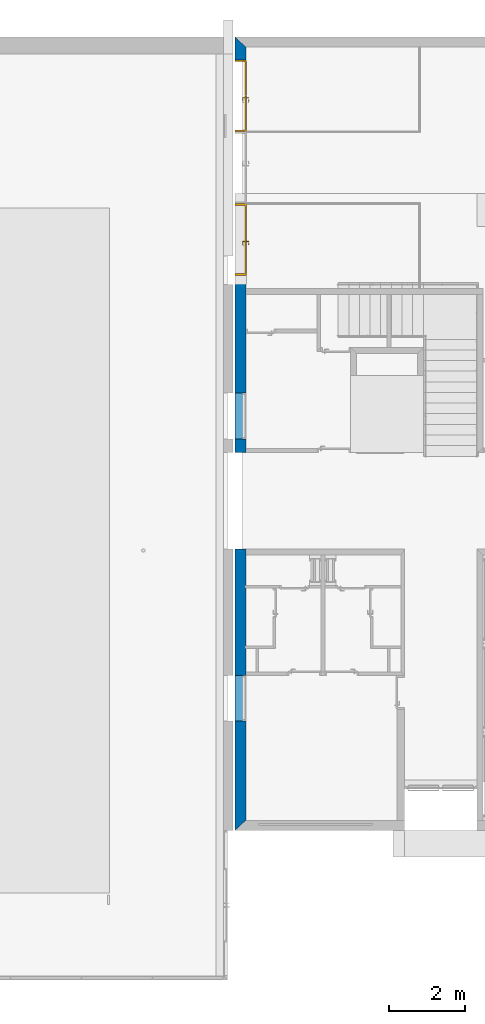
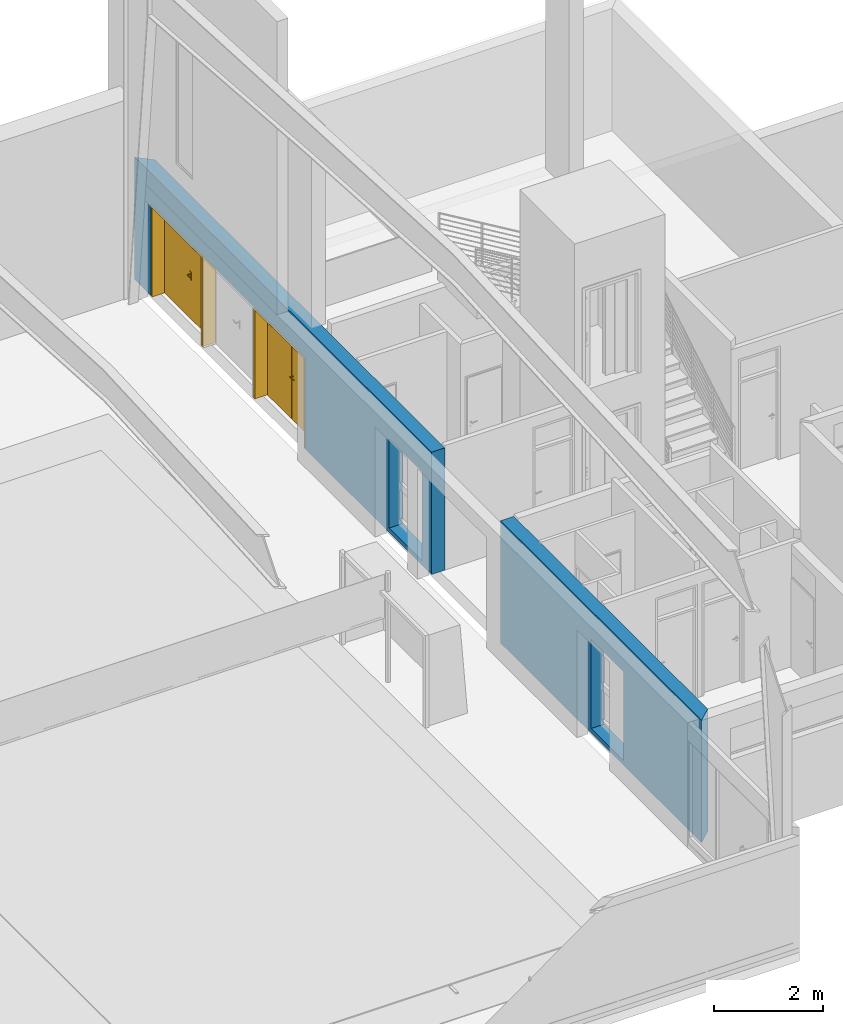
# One storey, part 10 of 45: 2 doors, 1 wall, 6 openings.
"""IFC2X3 building model written with IfcOpenShell, lengths in metres."""

from ifc_helpers import new_model, entity, si_unit, converted_unit, money_unit, direction, frame, origin_with_axes, place, context, subcontext, project, spatial, polyline, outline, extrude, open_shell, faceted_brep, surface_model, source, transform, mapped, material, layer, layer_set, layer_usage, type_object, element, fill, save


model = new_model("IFC2X3")

# Units and contexts
model_context = context("Model", 3, precision=1e-05, world=origin_with_axes(), true_north=direction((0.0, 1.0)))
body_context = subcontext(model_context, "Body", "Model", "MODEL_VIEW")
ifc_project = project(units=[si_unit("LENGTHUNIT", "METRE"), si_unit("AREAUNIT", "SQUARE_METRE"), si_unit("VOLUMEUNIT", "CUBIC_METRE"), converted_unit("PLANEANGLEUNIT", "DEGREE", entity("IfcPlaneAngleMeasure", 0.0174532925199), si_unit("PLANEANGLEUNIT", "RADIAN"), dimensions=[0, 0, 0, 0, 0, 0, 0]), si_unit("SOLIDANGLEUNIT", "STERADIAN"), money_unit("EUR"), converted_unit("TIMEUNIT", "Year", entity("IfcTimeMeasure", 31556926.0), si_unit("TIMEUNIT", "SECOND"), dimensions=[0, 0, 0, 0, 0, 0, 0]), si_unit("MASSUNIT", "GRAM"), si_unit("THERMODYNAMICTEMPERATUREUNIT", "DEGREE_CELSIUS"), si_unit("LUMINOUSINTENSITYUNIT", "LUMEN")], contexts=[model_context])

# Site, building, storey
site_placement = place(None, origin_with_axes())
site = spatial("IfcSite", under=ifc_project, at=site_placement, Name="Site", CompositionType="ELEMENT")
building_placement = place(site_placement, origin_with_axes())
building = spatial("IfcBuilding", under=site, at=building_placement, Name="Bâtiment", CompositionType="ELEMENT")
storey_placement = place(building_placement, origin_with_axes())
storey = spatial("IfcBuildingStorey", under=building, at=storey_placement, Name="NIVEAU BAS GYMNASE", CompositionType="ELEMENT", Elevation=0.0)

# Wall, openings, doors
ifc_material_1 = material(Name="Hachure solide* 3992800808")
ifc_layer_1 = layer(ifc_material_1, 0.02, ventilated="UNKNOWN")
ifc_material_2 = material(Name="Empty Fill 290923149")
ifc_layer_2 = layer(ifc_material_2, 0.08, ventilated="UNKNOWN")
ifc_material_3 = material(Name="Hachure solide* 2593434267")
ifc_layer_3 = layer(ifc_material_3, 0.18, ventilated="UNKNOWN")
ifc_layer_set = layer_set([ifc_layer_1, ifc_layer_2, ifc_layer_3], Name="•GYMN 18+10")
ifc_layer_usage = layer_usage(ifc_layer_set, "AXIS2", "POSITIVE", -0.28)
wall_type = type_object("IfcWallType", Name="•GYMN 18+10 280", PredefinedType="NOTDEFINED")
wall_placement = place(storey_placement, frame((45.478457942, 5.86881571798, 0.0), z_axis=(0.0, 0.0, 1.0), x_axis=(0.0, 1.0, 0.0)))
wall = element("IfcWallStandardCase", 1, at=wall_placement, inside=storey, type_object=wall_type, material=ifc_layer_usage, Name="Mur-021", context=body_context, shape_type="SweptSolid", body=[
    extrude(outline(polyline([(0.26, -0.28), (20.6103001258, -0.28), (20.8703001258, 0.0), (0.0, 0.0), (0.26, -0.28)])), origin_with_axes(), (0.0, 0.0, 1.0), 2.75),
])
opening_1_placement = place(wall_placement, frame((3.47, 0.0, 0.1), z_axis=(0.0, 0.0, 1.0), x_axis=(1.0, 0.0, 0.0)))
element("IfcOpeningElement", 2, at=opening_1_placement, cuts=wall, Name="Fen-005", context=body_context, shape_type="SweptSolid", body=[
    extrude(outline(polyline([(0.6, -2.0), (0.6, 0.0), (-0.6, 0.0), (-0.6, -2.0), (0.6, -2.0)])), frame((0.0, -0.28, 0.0), z_axis=(0.0, -1.0, 0.0), x_axis=(-1.0, 0.0, 0.0)), (0.0, 0.0, 1.0), 0.28),
    extrude(outline(polyline([(0.6, 0.0), (0.6, 2.0), (-0.6, 2.0), (-0.6, 0.0), (0.6, 0.0)])), frame((0.0, -0.28, 0.0), z_axis=(0.0, 1.0, 0.0), x_axis=(-1.0, 0.0, 0.0)), (0.0, 0.0, 1.0), 0.28),
])
opening_2_placement = place(wall_placement, frame((10.9011451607, 0.0, 0.1), z_axis=(0.0, 0.0, 1.0), x_axis=(1.0, 0.0, 0.0)))
element("IfcOpeningElement", 3, at=opening_2_placement, cuts=wall, Name="Fen-006", context=body_context, shape_type="SweptSolid", body=[
    extrude(outline(polyline([(0.6, -2.0), (0.6, 0.0), (-0.6, 0.0), (-0.6, -2.0), (0.6, -2.0)])), frame((0.0, -0.28, 0.0), z_axis=(0.0, -1.0, 0.0), x_axis=(-1.0, 0.0, 0.0)), (0.0, 0.0, 1.0), 0.28),
    extrude(outline(polyline([(0.6, 0.0), (0.6, 2.0), (-0.6, 2.0), (-0.6, 0.0), (0.6, 0.0)])), frame((0.0, -0.28, 0.0), z_axis=(0.0, 1.0, 0.0), x_axis=(-1.0, 0.0, 0.0)), (0.0, 0.0, 1.0), 0.28),
])
opening_3_placement = place(wall_placement, frame((8.67, 0.0, 0.0), z_axis=(0.0, 0.0, 1.0), x_axis=(1.0, 0.0, 0.0)))
element("IfcOpeningElement", 4, at=opening_3_placement, cuts=wall, Name="Por-001", context=body_context, shape_type="SweptSolid", body=[
    extrude(outline(polyline([(-1.27, 2.771708), (-1.27, 0.0), (1.27, 0.0), (1.27, 2.771708), (-1.27, 2.771708)])), frame((0.0, -0.28, 0.0), z_axis=(0.0, -1.0, 0.0), x_axis=(1.0, 0.0, 0.0)), (0.0, 0.0, 1.0), 0.28),
    extrude(outline(polyline([(-1.27, 0.0), (-1.27, -2.771708), (1.27, -2.771708), (1.27, 0.0), (-1.27, 0.0)])), frame((0.0, -0.28, 0.0), z_axis=(0.0, 1.0, 0.0), x_axis=(1.0, 0.0, 0.0)), (0.0, 0.0, 1.0), 0.28),
])
opening_4_placement = place(wall_placement, frame((17.4351500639, 0.0, 0.0), z_axis=(0.0, 0.0, 1.0), x_axis=(1.0, 0.0, 0.0)))
element("IfcOpeningElement", 5, at=opening_4_placement, cuts=wall, Name="Por-017", context=body_context, shape_type="SweptSolid", body=[
    extrude(outline(polyline([(0.945, 0.0), (-0.945, 0.0), (-0.945, -2.045), (0.945, -2.045), (0.945, 0.0)])), frame((0.0, 0.28, 0.0), z_axis=(0.0, -1.0, 0.0), x_axis=(-1.0, 0.0, 0.0)), (0.0, 0.0, 1.0), 0.56),
])
opening_5_placement = place(wall_placement, frame((19.3251500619, 0.0, 0.0), z_axis=(0.0, 0.0, 1.0), x_axis=(1.0, 0.0, 0.0)))
opening_5 = element("IfcOpeningElement", 6, at=opening_5_placement, cuts=wall, Name="Por-017", context=body_context, shape_type="SweptSolid", body=[
    extrude(outline(polyline([(-0.945, 0.0), (-0.945, -2.045), (0.945, -2.045), (0.945, 0.0), (-0.945, 0.0)])), frame((0.0, 0.28, 0.0), z_axis=(0.0, -1.0, 0.0), x_axis=(-1.0, 0.0, 0.0)), (0.0, 0.0, 1.0), 0.56),
])
opening_6_placement = place(wall_placement, frame((15.5451500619, 0.0, 0.0), z_axis=(0.0, 0.0, 1.0), x_axis=(1.0, 0.0, 0.0)))
opening_6 = element("IfcOpeningElement", 7, at=opening_6_placement, cuts=wall, Name="Por-018", context=body_context, shape_type="SweptSolid", body=[
    extrude(outline(polyline([(-0.945, 0.0), (-0.945, -2.045), (0.945, -2.045), (0.945, 0.0), (-0.945, 0.0)])), frame((0.0, 0.28, 0.0), z_axis=(0.0, -1.0, 0.0), x_axis=(-1.0, 0.0, 0.0)), (0.0, 0.0, 1.0), 0.56),
])
ifc_material_4 = material(Name="Sans Trame")
door_style = type_object("IfcDoorStyle", Name="Porte int 2v inégaux", ConstructionType="NOTDEFINED", OperationType="NOTDEFINED", ParameterTakesPrecedence=False, Sizeable=False)
shared_shape = source(origin_with_axes(), body_context, "Body", "SurfaceModel", [
    faceted_brep([(0.944999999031, 0.0, 0.0), (0.914999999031, 0.0, 0.0), (0.914999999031, 0.0, 2.015), (-0.915000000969, 0.0, 2.015), (-0.915000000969, 0.0, 0.0), (-0.945000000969, 0.0, 0.0), (-0.945000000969, 0.0, 2.045), (0.944999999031, 0.0, 2.045), (0.944999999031, -0.28, 0.0), (0.899999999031, -0.28, 0.0), (0.899999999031, -0.015, 0.0), (0.914999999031, -0.015, 0.0), (0.914999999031, -0.015, 2.015), (-0.915000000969, -0.015, 2.015), (-0.915000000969, -0.015, 0.0), (-0.900000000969, -0.015, 0.0), (-0.900000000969, -0.28, 0.0), (-0.945000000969, -0.28, 0.0), (-0.945000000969, -0.28, 2.045), (0.944999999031, -0.28, 2.045), (-0.900000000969, -0.28, 2.0), (0.899999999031, -0.28, 2.0), (0.899999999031, -0.015, 2.0), (-0.900000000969, -0.015, 2.0)], [[[0, 1, 2, 3, 4, 5, 6, 7]], [[0, 8, 9, 10, 11, 1]], [[1, 11, 12, 2]], [[2, 12, 13, 3]], [[3, 13, 14, 4]], [[5, 4, 14, 15, 16, 17]], [[18, 6, 5, 17]], [[19, 7, 6, 18]], [[8, 0, 7, 19]], [[9, 8, 19, 18, 17, 16, 20, 21]], [[10, 9, 21, 22]], [[11, 10, 22, 23, 15, 14, 13, 12]], [[23, 20, 16, 15]], [[22, 21, 20, 23]]]),
    faceted_brep([(-0.915000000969, 0.015, 0.0), (-0.00500000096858, 0.015, 0.0), (-0.00500000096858, -0.015, 0.0), (-0.915000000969, -0.015, 0.0), (-0.915000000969, 0.015, 2.015), (-0.00500000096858, 0.015, 2.015), (-0.00500000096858, -0.015, 2.015), (-0.915000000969, -0.015, 2.015)], [[[0, 1, 2, 3]], [[0, 4, 5, 1]], [[1, 5, 6, 2]], [[3, 2, 6, 7]], [[4, 0, 3, 7]], [[5, 4, 7, 6]]]),
    faceted_brep([(0.914999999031, 0.015, 0.0), (0.914999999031, -0.015, 0.0), (-9.68579882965e-10, -0.015, 0.0), (-9.68579882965e-10, 0.015, 0.0), (0.914999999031, 0.015, 2.015), (0.914999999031, -0.015, 2.015), (-9.68579882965e-10, -0.015, 2.015), (-9.68579882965e-10, 0.015, 2.015)], [[[0, 1, 2, 3]], [[4, 5, 1, 0]], [[1, 5, 6, 2]], [[3, 2, 6, 7]], [[0, 3, 7, 4]], [[7, 6, 5, 4]]]),
    faceted_brep([(0.0239999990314, -0.015, 1.06), (0.0239999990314, -0.018, 1.06), (0.0809999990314, -0.018, 1.06), (0.0809999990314, -0.015, 1.06), (0.0239999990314, -0.015, 0.87), (0.0239999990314, -0.018, 0.87), (0.0809999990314, -0.018, 0.87), (0.0809999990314, -0.015, 0.87)], [[[0, 1, 2, 3]], [[4, 5, 1, 0]], [[1, 5, 6, 2]], [[3, 2, 6, 7]], [[0, 3, 7, 4]], [[7, 6, 5, 4]]]),
    surface_model("IfcShellBasedSurfaceModel", [(0.0524999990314, -0.079, 0.99), (0.0524999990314, -0.086, 0.99), (0.0486729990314, -0.086, 0.990761), (0.0486729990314, -0.079, 0.990761), (0.0774999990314, -0.079, 0.99), (0.0774999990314, -0.086, 0.99), (0.0774999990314, -0.086, 1.01), (0.0524999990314, -0.086, 1.01), (0.0486729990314, -0.086, 1.009239), (0.0454289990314, -0.086, 1.007071), (0.0432609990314, -0.086, 1.003827), (0.0424999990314, -0.086, 1.0), (0.0432609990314, -0.086, 0.996173), (0.0454289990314, -0.086, 0.992929), (0.0454289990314, -0.079, 0.992929), (0.0432609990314, -0.079, 0.996173), (0.0424999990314, -0.079, 1.0), (0.0432609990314, -0.079, 1.003827), (0.0454289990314, -0.079, 1.007071), (0.0486729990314, -0.079, 1.009239), (0.0524999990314, -0.079, 1.01), (0.0774999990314, -0.079, 1.01)], [open_shell([[[0, 1, 2, 3]], [[4, 5, 1, 0]], [[1, 5, 6, 7, 8, 9, 10, 11, 12, 13, 2]], [[3, 2, 13, 14]], [[0, 3, 14, 15, 16, 17, 18, 19, 20, 21, 4]], [[20, 7, 6, 21]], [[19, 8, 7, 20]], [[18, 9, 8, 19]], [[17, 10, 9, 18]], [[16, 11, 10, 17]], [[15, 12, 11, 16]], [[14, 13, 12, 15]]])]),
    surface_model("IfcShellBasedSurfaceModel", [(0.0774999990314, -0.079, 1.01), (0.0909039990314, -0.086, 1.009607), (0.0905979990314, -0.079, 1.009607), (0.0774999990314, -0.086, 1.01), (0.117609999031, -0.083664, 1.008822), (0.0905979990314, -0.079, 0.990393), (0.0774999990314, -0.079, 0.99), (0.0774999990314, -0.086, 0.99), (0.0909039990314, -0.086, 0.990393), (0.117609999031, -0.083664, 0.991178), (0.116694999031, -0.076717, 1.008822), (0.116694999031, -0.076717, 0.991178), (0.144009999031, -0.079008, 0.991963), (0.144009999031, -0.079008, 1.008037), (0.142493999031, -0.072168, 1.008037), (0.142493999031, -0.072168, 0.991963), (0.169904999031, -0.07207, 0.992749), (0.169904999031, -0.07207, 1.007251), (0.167797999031, -0.065388, 1.007251), (0.167797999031, -0.065388, 0.992749), (0.177960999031, -0.069138, 0.993), (0.177960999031, -0.069138, 1.007), (0.175670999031, -0.062522, 1.007), (0.175670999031, -0.062522, 0.993)], [open_shell([[[0, 1, 2]], [[0, 3, 1]], [[2, 1, 4]], [[0, 2, 5, 6]], [[3, 7, 8, 1]], [[1, 8, 9, 4]], [[2, 4, 10]], [[2, 10, 11, 5]], [[5, 7, 6]], [[5, 8, 7]], [[11, 9, 8]], [[4, 9, 12, 13]], [[10, 4, 13]], [[10, 14, 15, 11]], [[11, 8, 5]], [[15, 9, 11]], [[15, 12, 9]], [[13, 12, 16, 17]], [[10, 13, 14]], [[14, 18, 19, 15]], [[19, 12, 15]], [[19, 16, 12]], [[17, 16, 20, 21]], [[14, 13, 17]], [[14, 17, 18]], [[18, 22, 23, 19]], [[23, 16, 19]], [[23, 20, 16]], [[22, 21, 20, 23]], [[18, 17, 21]], [[18, 21, 22]]])]),
    faceted_brep([(0.0635869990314, -0.028, 0.995408), (0.0645099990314, -0.018, 0.995025), (0.0654999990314, -0.018, 1.0), (0.0644999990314, -0.028, 1.0), (0.0609849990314, -0.028, 0.991515), (0.0616919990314, -0.018, 0.990808), (0.0574749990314, -0.018, 0.98799), (0.0524999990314, -0.018, 0.987), (0.0475249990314, -0.018, 0.98799), (0.0433079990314, -0.018, 0.990808), (0.0404899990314, -0.018, 0.995025), (0.0394999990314, -0.018, 1.0), (0.0404899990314, -0.018, 1.004975), (0.0433079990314, -0.018, 1.009192), (0.0475249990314, -0.018, 1.01201), (0.0524999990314, -0.018, 1.013), (0.0574749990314, -0.018, 1.01201), (0.0616919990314, -0.018, 1.009192), (0.0645099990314, -0.018, 1.004975), (0.0635869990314, -0.028, 1.004592), (0.0609849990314, -0.028, 1.008485), (0.0570919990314, -0.028, 1.011087), (0.0524999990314, -0.028, 1.012), (0.0479079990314, -0.028, 1.011087), (0.0440149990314, -0.028, 1.008485), (0.0414129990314, -0.028, 1.004592), (0.0404999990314, -0.028, 1.0), (0.0414129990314, -0.028, 0.995408), (0.0440149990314, -0.028, 0.991515), (0.0479079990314, -0.028, 0.988913), (0.0524999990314, -0.028, 0.988), (0.0570919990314, -0.028, 0.988913)], [[[0, 1, 2, 3]], [[4, 5, 1, 0]], [[2, 1, 5, 6, 7, 8, 9, 10, 11, 12, 13, 14, 15, 16, 17, 18]], [[3, 2, 18, 19]], [[3, 19, 20, 21, 22, 23, 24, 25, 26, 27, 28, 29, 30, 31, 4, 0]], [[31, 6, 5, 4]], [[30, 7, 6, 31]], [[29, 8, 7, 30]], [[28, 9, 8, 29]], [[27, 10, 9, 28]], [[26, 11, 10, 27]], [[25, 12, 11, 26]], [[24, 13, 12, 25]], [[23, 14, 13, 24]], [[22, 15, 14, 23]], [[21, 16, 15, 22]], [[20, 17, 16, 21]], [[19, 18, 17, 20]]]),
    faceted_brep([(0.0709779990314, -0.022, 0.897346), (0.0728249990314, -0.018, 0.896581), (0.0744999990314, -0.018, 0.905), (0.0724999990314, -0.022, 0.905), (0.0666419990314, -0.022, 0.890858), (0.0680559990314, -0.018, 0.889444), (0.0609189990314, -0.018, 0.884675), (0.0524999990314, -0.018, 0.883), (0.0440809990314, -0.018, 0.884675), (0.0369439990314, -0.018, 0.889444), (0.0321749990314, -0.018, 0.896581), (0.0304999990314, -0.018, 0.905), (0.0321749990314, -0.018, 0.913419), (0.0369439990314, -0.018, 0.920556), (0.0440809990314, -0.018, 0.925325), (0.0524999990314, -0.018, 0.927), (0.0609189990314, -0.018, 0.925325), (0.0680559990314, -0.018, 0.920556), (0.0728249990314, -0.018, 0.913419), (0.0709779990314, -0.022, 0.912654), (0.0666419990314, -0.022, 0.919142), (0.0601539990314, -0.022, 0.923478), (0.0524999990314, -0.022, 0.925), (0.0448459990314, -0.022, 0.923478), (0.0383579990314, -0.022, 0.919142), (0.0340219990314, -0.022, 0.912654), (0.0324999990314, -0.022, 0.905), (0.0340219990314, -0.022, 0.897346), (0.0383579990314, -0.022, 0.890858), (0.0448459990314, -0.022, 0.886522), (0.0524999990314, -0.022, 0.885), (0.0601539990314, -0.022, 0.886522)], [[[0, 1, 2, 3]], [[4, 5, 1, 0]], [[2, 1, 5, 6, 7, 8, 9, 10, 11, 12, 13, 14, 15, 16, 17, 18]], [[3, 2, 18, 19]], [[3, 19, 20, 21, 22, 23, 24, 25, 26, 27, 28, 29, 30, 31, 4, 0]], [[31, 6, 5, 4]], [[30, 7, 6, 31]], [[29, 8, 7, 30]], [[28, 9, 8, 29]], [[27, 10, 9, 28]], [[26, 11, 10, 27]], [[25, 12, 11, 26]], [[24, 13, 12, 25]], [[23, 14, 13, 24]], [[22, 15, 14, 23]], [[21, 16, 15, 22]], [[20, 17, 16, 21]], [[19, 18, 17, 20]]]),
    faceted_brep([(0.0589669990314, -0.024, 0.911321), (0.0598909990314, -0.022, 0.910939), (0.0604999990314, -0.022, 0.914), (0.0594999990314, -0.024, 0.914), (0.0574499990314, -0.024, 0.90905), (0.0581569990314, -0.022, 0.908343), (0.0555609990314, -0.022, 0.906609), (0.0524999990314, -0.022, 0.906), (0.0494389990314, -0.022, 0.906609), (0.0468429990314, -0.022, 0.908343), (0.0451089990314, -0.022, 0.910939), (0.0444999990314, -0.022, 0.914), (0.0451089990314, -0.022, 0.917061), (0.0468429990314, -0.022, 0.919657), (0.0494389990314, -0.022, 0.921391), (0.0524999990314, -0.022, 0.922), (0.0555609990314, -0.022, 0.921391), (0.0581569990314, -0.022, 0.919657), (0.0598909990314, -0.022, 0.917061), (0.0589669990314, -0.024, 0.916679), (0.0574499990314, -0.024, 0.91895), (0.0551789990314, -0.024, 0.920467), (0.0524999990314, -0.024, 0.921), (0.0498209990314, -0.024, 0.920467), (0.0475499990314, -0.024, 0.91895), (0.0460329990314, -0.024, 0.916679), (0.0454999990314, -0.024, 0.914), (0.0460329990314, -0.024, 0.911321), (0.0475499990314, -0.024, 0.90905), (0.0498209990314, -0.024, 0.907533), (0.0524999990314, -0.024, 0.907), (0.0551789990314, -0.024, 0.907533)], [[[0, 1, 2, 3]], [[4, 5, 1, 0]], [[2, 1, 5, 6, 7, 8, 9, 10, 11, 12, 13, 14, 15, 16, 17, 18]], [[3, 2, 18, 19]], [[3, 19, 20, 21, 22, 23, 24, 25, 26, 27, 28, 29, 30, 31, 4, 0]], [[31, 6, 5, 4]], [[30, 7, 6, 31]], [[29, 8, 7, 30]], [[28, 9, 8, 29]], [[27, 10, 9, 28]], [[26, 11, 10, 27]], [[25, 12, 11, 26]], [[24, 13, 12, 25]], [[23, 14, 13, 24]], [[22, 15, 14, 23]], [[21, 16, 15, 22]], [[20, 17, 16, 21]], [[19, 18, 17, 20]]]),
    faceted_brep([(0.0524999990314, -0.028, 1.01), (0.0524999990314, -0.079, 1.01), (0.0563269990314, -0.079, 1.009239), (0.0563269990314, -0.028, 1.009239), (0.0486729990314, -0.028, 1.009239), (0.0486729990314, -0.079, 1.009239), (0.0454289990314, -0.079, 1.007071), (0.0432609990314, -0.079, 1.003827), (0.0424999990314, -0.079, 1.0), (0.0432609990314, -0.079, 0.996173), (0.0454289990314, -0.079, 0.992929), (0.0486729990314, -0.079, 0.990761), (0.0524999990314, -0.079, 0.99), (0.0563269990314, -0.079, 0.990761), (0.0595709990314, -0.079, 0.992929), (0.0617389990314, -0.079, 0.996173), (0.0624999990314, -0.079, 1.0), (0.0617389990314, -0.079, 1.003827), (0.0595709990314, -0.079, 1.007071), (0.0595709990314, -0.028, 1.007071), (0.0617389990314, -0.028, 1.003827), (0.0624999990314, -0.028, 1.0), (0.0617389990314, -0.028, 0.996173), (0.0595709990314, -0.028, 0.992929), (0.0563269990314, -0.028, 0.990761), (0.0524999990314, -0.028, 0.99), (0.0486729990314, -0.028, 0.990761), (0.0454289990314, -0.028, 0.992929), (0.0432609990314, -0.028, 0.996173), (0.0424999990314, -0.028, 1.0), (0.0432609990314, -0.028, 1.003827), (0.0454289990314, -0.028, 1.007071)], [[[0, 1, 2, 3]], [[4, 5, 1, 0]], [[1, 5, 6, 7, 8, 9, 10, 11, 12, 13, 14, 15, 16, 17, 18, 2]], [[3, 2, 18, 19]], [[0, 3, 19, 20, 21, 22, 23, 24, 25, 26, 27, 28, 29, 30, 31, 4]], [[31, 6, 5, 4]], [[30, 7, 6, 31]], [[29, 8, 7, 30]], [[28, 9, 8, 29]], [[27, 10, 9, 28]], [[26, 11, 10, 27]], [[25, 12, 11, 26]], [[24, 13, 12, 25]], [[23, 14, 13, 24]], [[22, 15, 14, 23]], [[21, 16, 15, 22]], [[20, 17, 16, 21]], [[19, 18, 17, 20]]]),
    faceted_brep([(0.0239999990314, 0.015, 1.06), (0.0809999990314, 0.015, 1.06), (0.0809999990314, 0.018, 1.06), (0.0239999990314, 0.018, 1.06), (0.0239999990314, 0.015, 0.87), (0.0809999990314, 0.015, 0.87), (0.0809999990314, 0.018, 0.87), (0.0239999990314, 0.018, 0.87)], [[[0, 1, 2, 3]], [[0, 4, 5, 1]], [[1, 5, 6, 2]], [[3, 2, 6, 7]], [[4, 0, 3, 7]], [[5, 4, 7, 6]]]),
    surface_model("IfcShellBasedSurfaceModel", [(0.0524999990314, 0.079, 0.99), (0.0486729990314, 0.079, 0.990761), (0.0486729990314, 0.086, 0.990761), (0.0524999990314, 0.086, 0.99), (0.0774999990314, 0.079, 0.99), (0.0774999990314, 0.079, 1.01), (0.0524999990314, 0.079, 1.01), (0.0486729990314, 0.079, 1.009239), (0.0454289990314, 0.079, 1.007071), (0.0432609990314, 0.079, 1.003827), (0.0424999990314, 0.079, 1.0), (0.0432609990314, 0.079, 0.996173), (0.0454289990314, 0.079, 0.992929), (0.0454289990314, 0.086, 0.992929), (0.0432609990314, 0.086, 0.996173), (0.0424999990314, 0.086, 1.0), (0.0432609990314, 0.086, 1.003827), (0.0454289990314, 0.086, 1.007071), (0.0486729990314, 0.086, 1.009239), (0.0524999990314, 0.086, 1.01), (0.0774999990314, 0.086, 1.01), (0.0774999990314, 0.086, 0.99)], [open_shell([[[0, 1, 2, 3]], [[0, 4, 5, 6, 7, 8, 9, 10, 11, 12, 1]], [[1, 12, 13, 2]], [[3, 2, 13, 14, 15, 16, 17, 18, 19, 20, 21]], [[4, 0, 3, 21]], [[6, 5, 20, 19]], [[7, 6, 19, 18]], [[8, 7, 18, 17]], [[9, 8, 17, 16]], [[10, 9, 16, 15]], [[11, 10, 15, 14]], [[12, 11, 14, 13]]])]),
    surface_model("IfcShellBasedSurfaceModel", [(0.0774999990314, 0.079, 1.01), (0.0905979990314, 0.079, 1.009607), (0.0909039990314, 0.086, 1.009607), (0.0774999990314, 0.079, 0.99), (0.0905979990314, 0.079, 0.990393), (0.117609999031, 0.083664, 1.008822), (0.0774999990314, 0.086, 1.01), (0.0774999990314, 0.086, 0.99), (0.116694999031, 0.076717, 0.991178), (0.116694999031, 0.076717, 1.008822), (0.117609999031, 0.083664, 0.991178), (0.0909039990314, 0.086, 0.990393), (0.142493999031, 0.072168, 0.991963), (0.142493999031, 0.072168, 1.008037), (0.144009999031, 0.079008, 1.008037), (0.144009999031, 0.079008, 0.991963), (0.167797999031, 0.065388, 0.992749), (0.167797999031, 0.065388, 1.007251), (0.169904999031, 0.07207, 1.007251), (0.169904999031, 0.07207, 0.992749), (0.175670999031, 0.062522, 0.993), (0.175670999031, 0.062522, 1.007), (0.177960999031, 0.069138, 1.007), (0.177960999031, 0.069138, 0.993)], [open_shell([[[0, 1, 2]], [[0, 3, 4, 1]], [[1, 5, 2]], [[0, 2, 6]], [[4, 3, 7]], [[1, 4, 8, 9]], [[1, 9, 5]], [[2, 5, 10, 11]], [[6, 2, 11, 7]], [[4, 7, 11]], [[8, 4, 11]], [[9, 8, 12, 13]], [[9, 14, 5]], [[5, 14, 15, 10]], [[8, 11, 10]], [[12, 8, 10]], [[13, 12, 16, 17]], [[9, 13, 14]], [[14, 18, 19, 15]], [[12, 10, 15]], [[16, 12, 15]], [[17, 16, 20, 21]], [[13, 17, 18]], [[13, 18, 14]], [[18, 22, 23, 19]], [[16, 15, 19]], [[20, 16, 19]], [[21, 20, 23, 22]], [[17, 21, 22]], [[17, 22, 18]], [[20, 19, 23]]])]),
    faceted_brep([(0.0635869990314, 0.028, 0.995408), (0.0644999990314, 0.028, 1.0), (0.0654999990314, 0.018, 1.0), (0.0645099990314, 0.018, 0.995025), (0.0609849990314, 0.028, 0.991515), (0.0570919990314, 0.028, 0.988913), (0.0524999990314, 0.028, 0.988), (0.0479079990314, 0.028, 0.988913), (0.0440149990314, 0.028, 0.991515), (0.0414129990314, 0.028, 0.995408), (0.0404999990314, 0.028, 1.0), (0.0414129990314, 0.028, 1.004592), (0.0440149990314, 0.028, 1.008485), (0.0479079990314, 0.028, 1.011087), (0.0524999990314, 0.028, 1.012), (0.0570919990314, 0.028, 1.011087), (0.0609849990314, 0.028, 1.008485), (0.0635869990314, 0.028, 1.004592), (0.0645099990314, 0.018, 1.004975), (0.0616919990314, 0.018, 1.009192), (0.0574749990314, 0.018, 1.01201), (0.0524999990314, 0.018, 1.013), (0.0475249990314, 0.018, 1.01201), (0.0433079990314, 0.018, 1.009192), (0.0404899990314, 0.018, 1.004975), (0.0394999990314, 0.018, 1.0), (0.0404899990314, 0.018, 0.995025), (0.0433079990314, 0.018, 0.990808), (0.0475249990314, 0.018, 0.98799), (0.0524999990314, 0.018, 0.987), (0.0574749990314, 0.018, 0.98799), (0.0616919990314, 0.018, 0.990808)], [[[0, 1, 2, 3]], [[1, 0, 4, 5, 6, 7, 8, 9, 10, 11, 12, 13, 14, 15, 16, 17]], [[1, 17, 18, 2]], [[2, 18, 19, 20, 21, 22, 23, 24, 25, 26, 27, 28, 29, 30, 31, 3]], [[4, 0, 3, 31]], [[5, 4, 31, 30]], [[6, 5, 30, 29]], [[7, 6, 29, 28]], [[8, 7, 28, 27]], [[9, 8, 27, 26]], [[10, 9, 26, 25]], [[11, 10, 25, 24]], [[12, 11, 24, 23]], [[13, 12, 23, 22]], [[14, 13, 22, 21]], [[15, 14, 21, 20]], [[16, 15, 20, 19]], [[17, 16, 19, 18]]]),
    faceted_brep([(0.0709779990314, 0.022, 0.897346), (0.0724999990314, 0.022, 0.905), (0.0744999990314, 0.018, 0.905), (0.0728249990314, 0.018, 0.896581), (0.0666419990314, 0.022, 0.890858), (0.0601539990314, 0.022, 0.886522), (0.0524999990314, 0.022, 0.885), (0.0448459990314, 0.022, 0.886522), (0.0383579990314, 0.022, 0.890858), (0.0340219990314, 0.022, 0.897346), (0.0324999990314, 0.022, 0.905), (0.0340219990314, 0.022, 0.912654), (0.0383579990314, 0.022, 0.919142), (0.0448459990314, 0.022, 0.923478), (0.0524999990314, 0.022, 0.925), (0.0601539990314, 0.022, 0.923478), (0.0666419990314, 0.022, 0.919142), (0.0709779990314, 0.022, 0.912654), (0.0728249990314, 0.018, 0.913419), (0.0680559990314, 0.018, 0.920556), (0.0609189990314, 0.018, 0.925325), (0.0524999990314, 0.018, 0.927), (0.0440809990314, 0.018, 0.925325), (0.0369439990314, 0.018, 0.920556), (0.0321749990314, 0.018, 0.913419), (0.0304999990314, 0.018, 0.905), (0.0321749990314, 0.018, 0.896581), (0.0369439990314, 0.018, 0.889444), (0.0440809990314, 0.018, 0.884675), (0.0524999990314, 0.018, 0.883), (0.0609189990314, 0.018, 0.884675), (0.0680559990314, 0.018, 0.889444)], [[[0, 1, 2, 3]], [[1, 0, 4, 5, 6, 7, 8, 9, 10, 11, 12, 13, 14, 15, 16, 17]], [[1, 17, 18, 2]], [[2, 18, 19, 20, 21, 22, 23, 24, 25, 26, 27, 28, 29, 30, 31, 3]], [[4, 0, 3, 31]], [[5, 4, 31, 30]], [[6, 5, 30, 29]], [[7, 6, 29, 28]], [[8, 7, 28, 27]], [[9, 8, 27, 26]], [[10, 9, 26, 25]], [[11, 10, 25, 24]], [[12, 11, 24, 23]], [[13, 12, 23, 22]], [[14, 13, 22, 21]], [[15, 14, 21, 20]], [[16, 15, 20, 19]], [[17, 16, 19, 18]]]),
    faceted_brep([(0.0589669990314, 0.024, 0.911321), (0.0594999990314, 0.024, 0.914), (0.0604999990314, 0.022, 0.914), (0.0598909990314, 0.022, 0.910939), (0.0574499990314, 0.024, 0.90905), (0.0551789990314, 0.024, 0.907533), (0.0524999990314, 0.024, 0.907), (0.0498209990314, 0.024, 0.907533), (0.0475499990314, 0.024, 0.90905), (0.0460329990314, 0.024, 0.911321), (0.0454999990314, 0.024, 0.914), (0.0460329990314, 0.024, 0.916679), (0.0475499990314, 0.024, 0.91895), (0.0498209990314, 0.024, 0.920467), (0.0524999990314, 0.024, 0.921), (0.0551789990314, 0.024, 0.920467), (0.0574499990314, 0.024, 0.91895), (0.0589669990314, 0.024, 0.916679), (0.0598909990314, 0.022, 0.917061), (0.0581569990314, 0.022, 0.919657), (0.0555609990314, 0.022, 0.921391), (0.0524999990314, 0.022, 0.922), (0.0494389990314, 0.022, 0.921391), (0.0468429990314, 0.022, 0.919657), (0.0451089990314, 0.022, 0.917061), (0.0444999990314, 0.022, 0.914), (0.0451089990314, 0.022, 0.910939), (0.0468429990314, 0.022, 0.908343), (0.0494389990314, 0.022, 0.906609), (0.0524999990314, 0.022, 0.906), (0.0555609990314, 0.022, 0.906609), (0.0581569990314, 0.022, 0.908343)], [[[0, 1, 2, 3]], [[1, 0, 4, 5, 6, 7, 8, 9, 10, 11, 12, 13, 14, 15, 16, 17]], [[1, 17, 18, 2]], [[2, 18, 19, 20, 21, 22, 23, 24, 25, 26, 27, 28, 29, 30, 31, 3]], [[4, 0, 3, 31]], [[5, 4, 31, 30]], [[6, 5, 30, 29]], [[7, 6, 29, 28]], [[8, 7, 28, 27]], [[9, 8, 27, 26]], [[10, 9, 26, 25]], [[11, 10, 25, 24]], [[12, 11, 24, 23]], [[13, 12, 23, 22]], [[14, 13, 22, 21]], [[15, 14, 21, 20]], [[16, 15, 20, 19]], [[17, 16, 19, 18]]]),
    faceted_brep([(0.0524999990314, 0.028, 1.01), (0.0563269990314, 0.028, 1.009239), (0.0563269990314, 0.079, 1.009239), (0.0524999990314, 0.079, 1.01), (0.0486729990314, 0.028, 1.009239), (0.0454289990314, 0.028, 1.007071), (0.0432609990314, 0.028, 1.003827), (0.0424999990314, 0.028, 1.0), (0.0432609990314, 0.028, 0.996173), (0.0454289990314, 0.028, 0.992929), (0.0486729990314, 0.028, 0.990761), (0.0524999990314, 0.028, 0.99), (0.0563269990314, 0.028, 0.990761), (0.0595709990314, 0.028, 0.992929), (0.0617389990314, 0.028, 0.996173), (0.0624999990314, 0.028, 1.0), (0.0617389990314, 0.028, 1.003827), (0.0595709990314, 0.028, 1.007071), (0.0595709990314, 0.079, 1.007071), (0.0617389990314, 0.079, 1.003827), (0.0624999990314, 0.079, 1.0), (0.0617389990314, 0.079, 0.996173), (0.0595709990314, 0.079, 0.992929), (0.0563269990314, 0.079, 0.990761), (0.0524999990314, 0.079, 0.99), (0.0486729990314, 0.079, 0.990761), (0.0454289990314, 0.079, 0.992929), (0.0432609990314, 0.079, 0.996173), (0.0424999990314, 0.079, 1.0), (0.0432609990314, 0.079, 1.003827), (0.0454289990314, 0.079, 1.007071), (0.0486729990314, 0.079, 1.009239)], [[[0, 1, 2, 3]], [[0, 4, 5, 6, 7, 8, 9, 10, 11, 12, 13, 14, 15, 16, 17, 1]], [[1, 17, 18, 2]], [[3, 2, 18, 19, 20, 21, 22, 23, 24, 25, 26, 27, 28, 29, 30, 31]], [[4, 0, 3, 31]], [[5, 4, 31, 30]], [[6, 5, 30, 29]], [[7, 6, 29, 28]], [[8, 7, 28, 27]], [[9, 8, 27, 26]], [[10, 9, 26, 25]], [[11, 10, 25, 24]], [[12, 11, 24, 23]], [[13, 12, 23, 22]], [[14, 13, 22, 21]], [[15, 14, 21, 20]], [[16, 15, 20, 19]], [[17, 16, 19, 18]]]),
    faceted_brep([(0.0149999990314, 0.02, 0.0), (-0.0150000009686, 0.02, 0.0), (-0.0150000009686, 0.02, 2.015), (0.0149999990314, 0.02, 2.015), (0.0149999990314, 0.015, 0.0), (-0.0150000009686, 0.015, 0.0), (-0.0150000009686, 0.015, 2.015), (0.0149999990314, 0.015, 2.015)], [[[0, 1, 2, 3]], [[1, 0, 4, 5]], [[2, 1, 5, 6]], [[3, 2, 6, 7]], [[0, 3, 7, 4]], [[5, 4, 7, 6]]]),
])
door_1_placement = place(opening_5_placement, frame((0.945000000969, 0.0, 0.0), z_axis=(0.0, 0.0, 1.0), x_axis=(-1.0, 0.0, 0.0)))
door_1 = element("IfcDoor", 8, at=door_1_placement, inside=storey, type_object=door_style, material=ifc_material_4, Name="Por-017", OverallHeight=2.045, OverallWidth=1.89, context=body_context, shape_type="MappedRepresentation", body=[
    mapped(shared_shape, transform((0.945000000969, 0.28, 0.0))),
])
fill(opening_5, door_1)
door_2_placement = place(opening_6_placement, frame((0.945000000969, 0.0, 0.0), z_axis=(0.0, 0.0, 1.0), x_axis=(-1.0, 0.0, 0.0)))
door_2 = element("IfcDoor", 9, at=door_2_placement, inside=storey, type_object=door_style, material=ifc_material_4, Name="Por-018", OverallHeight=2.045, OverallWidth=1.89, context=body_context, shape_type="MappedRepresentation", body=[
    mapped(shared_shape, transform((0.945000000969, 0.28, 0.0))),
])
fill(opening_6, door_2)

save(model, "model.ifc")
